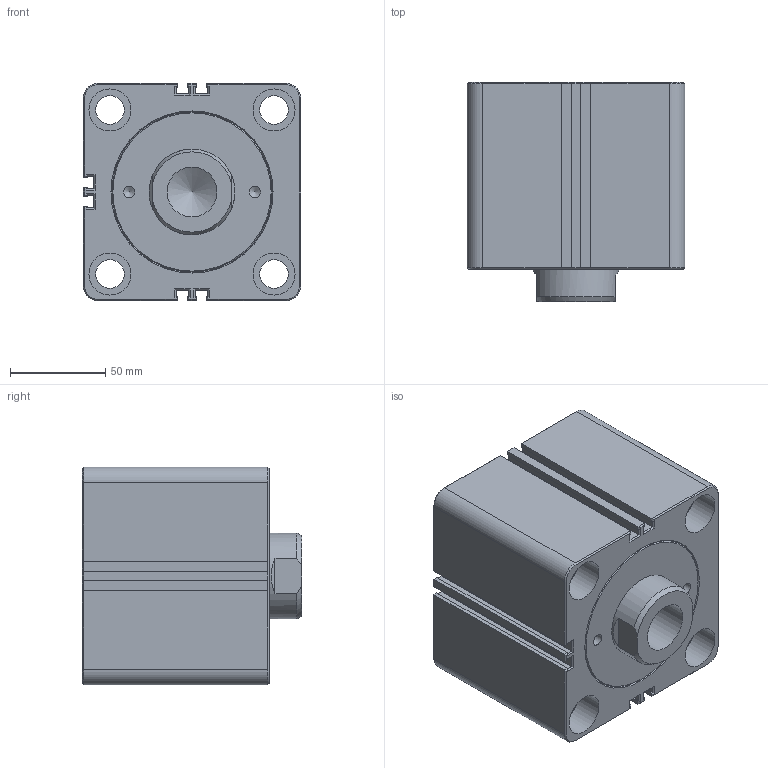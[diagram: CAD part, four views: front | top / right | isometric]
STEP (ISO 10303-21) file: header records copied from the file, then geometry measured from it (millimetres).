
FILE_DESCRIPTION(/* description */ ('Unknown'),/* implementation_level */ '2;1');
FILE_NAME(/* name */ 'HTM70-SDMB80X20N',/* time_stamp */ '2022-08-31T05:47:39+08:00',/* author */ ('Unknown'),/* organization */ ('Unknown'),/* preprocessor_version */ 'ST-DEVELOPER v16.7',/* originating_system */ 'DEX',/* authorisation */ $);
FILE_SCHEMA (('AUTOMOTIVE_DESIGN {1 0 10303 214 3 1 1}'));
Length unit declared in the file: millimetre
Products named in the file (1): HTM70-SDMB80X20N
Bounding box: 114 x 115 x 114 mm (x, y, z)
Volume: 1155339.9 mm3; surface area: 104089.2 mm2
Topology: 1 solids, 1 shells, 281 faces, 635 edges, 374 vertices
Faces by surface type: plane 180, cone 38, bspline 36, cylinder 27
Full cylindrical faces by diameter (mm): 6 x1, 6.1 x2, 7 x2, 15 x6, 16.5 x2, 22 x8, 26.211 x1, 45 x1
Entity records: 9649 total; most frequent: CARTESIAN_POINT 1869, ORIENTED_EDGE 1162, DIRECTION 1100, EDGE_CURVE 581, LINE 402, VECTOR 402, VERTEX_POINT 358, AXIS2_PLACEMENT_3D 349
